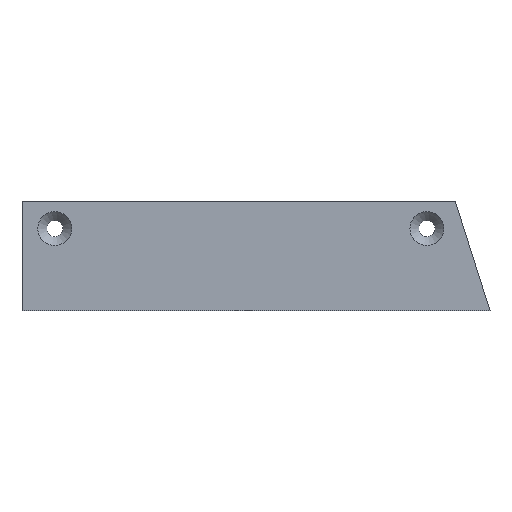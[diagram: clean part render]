
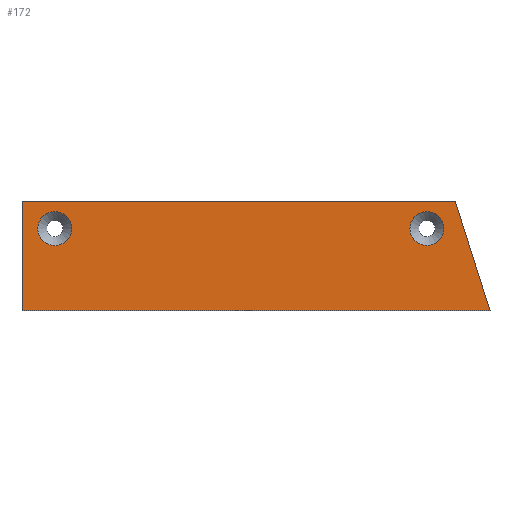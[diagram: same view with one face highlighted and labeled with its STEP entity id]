
A CAD part, top view. The second image highlights one B-rep face of the part: STEP entity #172.
In plain terms, the highlighted planar face has unit normal (0, 0, 1).
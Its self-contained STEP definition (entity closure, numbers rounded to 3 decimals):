
#17=FACE_BOUND('',#39,.T.);
#18=FACE_BOUND('',#40,.T.);
#21=PLANE('',#186);
#28=FACE_OUTER_BOUND('',#38,.T.);
#38=EDGE_LOOP('',(#129,#130,#131,#132));
#39=EDGE_LOOP('',(#133));
#40=EDGE_LOOP('',(#134));
#52=LINE('',#259,#68);
#53=LINE('',#261,#69);
#54=LINE('',#263,#70);
#55=LINE('',#264,#71);
#68=VECTOR('',#210,10.);
#69=VECTOR('',#211,10.);
#70=VECTOR('',#212,10.);
#71=VECTOR('',#213,10.);
#83=CIRCLE('',#184,3.1);
#85=CIRCLE('',#187,3.1);
#89=VERTEX_POINT('',#251);
#91=VERTEX_POINT('',#257);
#92=VERTEX_POINT('',#258);
#93=VERTEX_POINT('',#260);
#94=VERTEX_POINT('',#262);
#95=VERTEX_POINT('',#265);
#103=EDGE_CURVE('',#89,#89,#83,.T.);
#106=EDGE_CURVE('',#91,#92,#52,.T.);
#107=EDGE_CURVE('',#92,#93,#53,.T.);
#108=EDGE_CURVE('',#93,#94,#54,.T.);
#109=EDGE_CURVE('',#94,#91,#55,.T.);
#110=EDGE_CURVE('',#95,#95,#85,.T.);
#129=ORIENTED_EDGE('',*,*,#106,.T.);
#130=ORIENTED_EDGE('',*,*,#107,.T.);
#131=ORIENTED_EDGE('',*,*,#108,.T.);
#132=ORIENTED_EDGE('',*,*,#109,.T.);
#133=ORIENTED_EDGE('',*,*,#110,.F.);
#134=ORIENTED_EDGE('',*,*,#103,.F.);
#172=ADVANCED_FACE('',(#28,#17,#18),#21,.T.);
#184=AXIS2_PLACEMENT_3D('',#252,#203,#204);
#186=AXIS2_PLACEMENT_3D('',#256,#208,#209);
#187=AXIS2_PLACEMENT_3D('',#266,#214,#215);
#203=DIRECTION('center_axis',(0.,0.,1.));
#204=DIRECTION('ref_axis',(-1.,0.,0.));
#208=DIRECTION('center_axis',(0.,0.,1.));
#209=DIRECTION('ref_axis',(-1.,0.,0.));
#210=DIRECTION('',(-0.303,0.953,0.));
#211=DIRECTION('',(-1.,0.,0.));
#212=DIRECTION('',(0.,-1.,0.));
#213=DIRECTION('',(1.,0.,0.));
#214=DIRECTION('center_axis',(0.,0.,1.));
#215=DIRECTION('ref_axis',(-1.,0.,0.));
#251=CARTESIAN_POINT('',(9.1,151.,19.));
#252=CARTESIAN_POINT('Origin',(6.,151.,19.));
#256=CARTESIAN_POINT('Origin',(42.824,146.,19.));
#257=CARTESIAN_POINT('',(85.647,136.,19.));
#258=CARTESIAN_POINT('',(79.294,156.,19.));
#259=CARTESIAN_POINT('',(79.294,156.,19.));
#260=CARTESIAN_POINT('',(0.,156.,19.));
#261=CARTESIAN_POINT('',(0.,156.,19.));
#262=CARTESIAN_POINT('',(0.,136.,19.));
#263=CARTESIAN_POINT('',(0.,136.,19.));
#264=CARTESIAN_POINT('',(85.647,136.,19.));
#265=CARTESIAN_POINT('',(77.199,151.,19.));
#266=CARTESIAN_POINT('Origin',(74.099,151.,19.));
